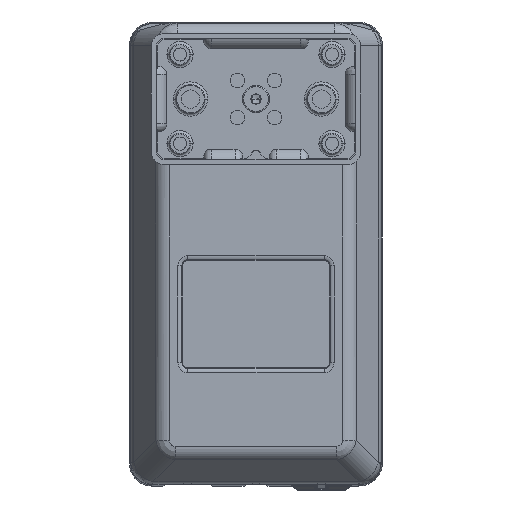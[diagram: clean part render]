
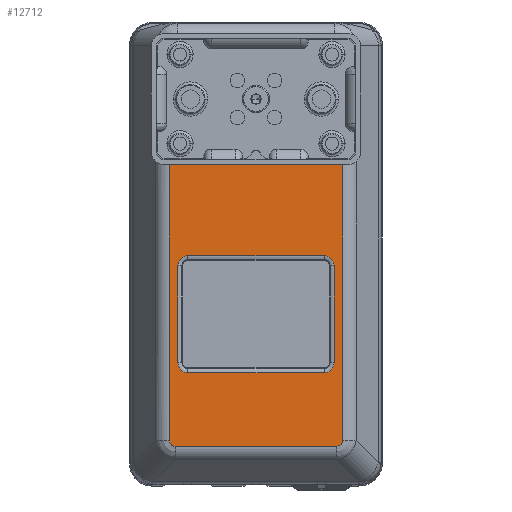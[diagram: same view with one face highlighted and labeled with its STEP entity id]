
A CAD part, front view. The second image highlights one B-rep face of the part: STEP entity #12712.
In plain terms, the highlighted planar face has unit normal (0, -1, 0) as drawn and (0, 1, 0) by its records, which use the part's own axes.
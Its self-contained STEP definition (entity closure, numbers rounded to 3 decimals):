
#1872=DIRECTION('',(-1.,0.,0.));
#1873=VECTOR('',#1872,61.725);
#1874=CARTESIAN_POINT('',(30.863,41.5,-161.378));
#1875=LINE('',#1874,#1873);
#1901=DIRECTION('',(0.,0.,-1.));
#1902=VECTOR('',#1901,109.034);
#1903=CARTESIAN_POINT('',(33.028,41.5,-50.178));
#1904=LINE('',#1903,#1902);
#2026=CARTESIAN_POINT('',(-28.5,41.5,
-42.4));
#2027=DIRECTION('',(0.,1.,0.));
#2028=DIRECTION('',(0.,0.,-1.));
#2029=AXIS2_PLACEMENT_3D('',#2026,#2027,#2028);
#2031=CARTESIAN_POINT('',(-33.028,41.5,-159.213));
#2032=CARTESIAN_POINT('',(-33.028,41.5,-159.3));
#2033=CARTESIAN_POINT('',(-33.019,41.5,-159.481));
#2034=CARTESIAN_POINT('',(-32.977,41.5,-159.747));
#2035=CARTESIAN_POINT('',(-32.904,41.5,-160.008));
#2036=CARTESIAN_POINT('',(-32.802,41.5,-160.253));
#2037=CARTESIAN_POINT('',(-32.672,41.5,-160.478));
#2038=CARTESIAN_POINT('',(-32.515,41.5,-160.683));
#2039=CARTESIAN_POINT('',(-32.334,41.5,-160.864));
#2040=CARTESIAN_POINT('',(-32.13,41.5,-161.021));
#2041=CARTESIAN_POINT('',(-31.904,41.5,-161.151));
#2042=CARTESIAN_POINT('',(-31.66,41.5,-161.253));
#2043=CARTESIAN_POINT('',(-31.399,41.5,-161.326));
#2044=CARTESIAN_POINT('',(-31.132,41.5,-161.369));
#2045=CARTESIAN_POINT('',(-30.95,41.5,-161.378));
#2046=CARTESIAN_POINT('',(-30.863,41.5,-161.378));
#2048=CARTESIAN_POINT('',(30.863,41.5,-161.378));
#2049=CARTESIAN_POINT('',(30.95,41.5,-161.378));
#2050=CARTESIAN_POINT('',(31.132,41.5,-161.369));
#2051=CARTESIAN_POINT('',(31.399,41.5,-161.326));
#2052=CARTESIAN_POINT('',(31.66,41.5,-161.253));
#2053=CARTESIAN_POINT('',(31.904,41.5,-161.151));
#2054=CARTESIAN_POINT('',(32.13,41.5,-161.021));
#2055=CARTESIAN_POINT('',(32.334,41.5,-160.864));
#2056=CARTESIAN_POINT('',(32.515,41.5,-160.683));
#2057=CARTESIAN_POINT('',(32.672,41.5,-160.478));
#2058=CARTESIAN_POINT('',(32.802,41.5,-160.253));
#2059=CARTESIAN_POINT('',(32.904,41.5,-160.008));
#2060=CARTESIAN_POINT('',(32.977,41.5,-159.747));
#2061=CARTESIAN_POINT('',(33.019,41.5,-159.481));
#2062=CARTESIAN_POINT('',(33.028,41.5,-159.3));
#2063=CARTESIAN_POINT('',(33.028,41.5,-159.213));
#2065=CARTESIAN_POINT('',(28.5,41.5,-42.4));
#2066=DIRECTION('',(0.,1.,0.));
#2067=DIRECTION('',(0.503,0.,-0.864));
#2068=AXIS2_PLACEMENT_3D('',#2065,#2066,#2067);
#2070=CARTESIAN_POINT('',(26.,41.5,-129.5));
#2071=DIRECTION('',(0.,1.,0.));
#2072=DIRECTION('',(1.,0.,0.));
#2073=AXIS2_PLACEMENT_3D('',#2070,#2071,#2072);
#2075=CARTESIAN_POINT('',(-26.,41.5,-129.5));
#2076=DIRECTION('',(0.,1.,0.));
#2077=DIRECTION('',(0.,0.,-1.));
#2078=AXIS2_PLACEMENT_3D('',#2075,#2076,#2077);
#2080=CARTESIAN_POINT('',(-26.,41.5,-92.5));
#2081=DIRECTION('',(0.,1.,0.));
#2082=DIRECTION('',(-1.,0.,0.));
#2083=AXIS2_PLACEMENT_3D('',#2080,#2081,#2082);
#2085=CARTESIAN_POINT('',(26.,41.5,-92.5));
#2086=DIRECTION('',(0.,1.,0.));
#2087=DIRECTION('',(0.,0.,1.));
#2088=AXIS2_PLACEMENT_3D('',#2085,#2086,#2087);
#2090=DIRECTION('',(1.,0.,0.));
#2091=VECTOR('',#2090,57.);
#2092=CARTESIAN_POINT('',(-28.5,41.5,-51.4));
#2093=LINE('',#2092,#2091);
#2267=DIRECTION('',(0.,0.,1.));
#2268=VECTOR('',#2267,109.034);
#2269=CARTESIAN_POINT('',(-33.028,41.5,-159.213));
#2270=LINE('',#2269,#2268);
#2362=DIRECTION('',(0.,0.,1.));
#2363=VECTOR('',#2362,37.);
#2364=CARTESIAN_POINT('',(29.803,41.5,-129.5));
#2365=LINE('',#2364,#2363);
#2385=DIRECTION('',(-1.,0.,0.));
#2386=VECTOR('',#2385,52.);
#2387=CARTESIAN_POINT('',(26.,41.5,-88.697));
#2388=LINE('',#2387,#2386);
#2408=DIRECTION('',(0.,0.,-1.));
#2409=VECTOR('',#2408,37.);
#2410=CARTESIAN_POINT('',(-29.803,41.5,-92.5));
#2411=LINE('',#2410,#2409);
#2431=DIRECTION('',(1.,0.,0.));
#2432=VECTOR('',#2431,52.);
#2433=CARTESIAN_POINT('',(-26.,41.5,-133.303));
#2434=LINE('',#2433,#2432);
#8916=CARTESIAN_POINT('',(-28.5,41.5,-51.4));
#8917=CARTESIAN_POINT('',(28.5,41.5,-51.4));
#8918=VERTEX_POINT('',#8916);
#8919=VERTEX_POINT('',#8917);
#8920=CARTESIAN_POINT('',(-33.028,41.5,-50.178));
#8921=VERTEX_POINT('',#8920);
#8922=CARTESIAN_POINT('',(-33.028,41.5,-159.213));
#8923=VERTEX_POINT('',#8922);
#8924=VERTEX_POINT('',#2046);
#8925=CARTESIAN_POINT('',(30.863,41.5,-161.378));
#8926=VERTEX_POINT('',#8925);
#8927=VERTEX_POINT('',#2063);
#8928=CARTESIAN_POINT('',(33.028,41.5,-50.178));
#8929=VERTEX_POINT('',#8928);
#8930=CARTESIAN_POINT('',(29.803,41.5,-129.5));
#8931=CARTESIAN_POINT('',(26.,41.5,-133.303));
#8932=VERTEX_POINT('',#8930);
#8933=VERTEX_POINT('',#8931);
#8934=CARTESIAN_POINT('',(-26.,41.5,-133.303));
#8935=VERTEX_POINT('',#8934);
#8936=CARTESIAN_POINT('',(-29.803,41.5,-129.5));
#8937=VERTEX_POINT('',#8936);
#8938=CARTESIAN_POINT('',(-29.803,41.5,-92.5));
#8939=VERTEX_POINT('',#8938);
#8940=CARTESIAN_POINT('',(-26.,41.5,-88.697));
#8941=VERTEX_POINT('',#8940);
#8942=CARTESIAN_POINT('',(26.,41.5,-88.697));
#8943=VERTEX_POINT('',#8942);
#8944=CARTESIAN_POINT('',(29.803,41.5,-92.5));
#8945=VERTEX_POINT('',#8944);
#12676=CARTESIAN_POINT('',(36.492,41.5,0.));
#12677=DIRECTION('',(0.,1.,0.));
#12678=DIRECTION('',(-1.,0.,0.));
#12679=AXIS2_PLACEMENT_3D('',#12676,#12677,#12678);
#12680=PLANE('',#12679);
#12682=ORIENTED_EDGE('',*,*,#12681,.F.);
#12684=ORIENTED_EDGE('',*,*,#12683,.T.);
#12686=ORIENTED_EDGE('',*,*,#12685,.F.);
#12687=ORIENTED_EDGE('',*,*,#12316,.T.);
#12688=ORIENTED_EDGE('',*,*,#12331,.F.);
#12689=ORIENTED_EDGE('',*,*,#12412,.T.);
#12690=ORIENTED_EDGE('',*,*,#12426,.F.);
#12691=ORIENTED_EDGE('',*,*,#12654,.T.);
#12692=EDGE_LOOP('',(#12682,#12684,#12686,#12687,#12688,#12689,#12690,#12691));
#12693=FACE_OUTER_BOUND('',#12692,.F.);
#12695=ORIENTED_EDGE('',*,*,#12694,.T.);
#12697=ORIENTED_EDGE('',*,*,#12696,.F.);
#12699=ORIENTED_EDGE('',*,*,#12698,.T.);
#12701=ORIENTED_EDGE('',*,*,#12700,.F.);
#12703=ORIENTED_EDGE('',*,*,#12702,.T.);
#12705=ORIENTED_EDGE('',*,*,#12704,.F.);
#12707=ORIENTED_EDGE('',*,*,#12706,.T.);
#12709=ORIENTED_EDGE('',*,*,#12708,.F.);
#12710=EDGE_LOOP('',(#12695,#12697,#12699,#12701,#12703,#12705,#12707,#12709));
#12711=FACE_BOUND('',#12710,.F.);
#2030=CIRCLE('',#2029,9.);
#2047=B_SPLINE_CURVE_WITH_KNOTS('',3,(#2031,#2032,#2033,#2034,#2035,#2036,#2037,
#2038,#2039,#2040,#2041,#2042,#2043,#2044,#2045,#2046),.UNSPECIFIED.,.F.,.F.,(4,
1,1,1,1,1,1,1,1,1,1,1,1,4),(0.,0.072,0.151,
0.229,0.307,0.384,0.461,
0.538,0.615,0.692,0.77,
0.848,0.927,1.),.UNSPECIFIED.);
#2064=B_SPLINE_CURVE_WITH_KNOTS('',3,(#2048,#2049,#2050,#2051,#2052,#2053,#2054,
#2055,#2056,#2057,#2058,#2059,#2060,#2061,#2062,#2063),.UNSPECIFIED.,.F.,.F.,(4,
1,1,1,1,1,1,1,1,1,1,1,1,4),(0.,0.073,0.152,
0.23,0.308,0.385,0.462,
0.539,0.616,0.693,0.771,
0.849,0.928,1.),.UNSPECIFIED.);
#2069=CIRCLE('',#2068,9.);
#2074=CIRCLE('',#2073,3.803);
#2079=CIRCLE('',#2078,3.803);
#2084=CIRCLE('',#2083,3.803);
#2089=CIRCLE('',#2088,3.803);
#12316=EDGE_CURVE('',#8923,#8924,#2047,.T.);
#12331=EDGE_CURVE('',#8926,#8924,#1875,.T.);
#12412=EDGE_CURVE('',#8926,#8927,#2064,.T.);
#12426=EDGE_CURVE('',#8929,#8927,#1904,.T.);
#12654=EDGE_CURVE('',#8929,#8919,#2069,.T.);
#12681=EDGE_CURVE('',#8918,#8919,#2093,.T.);
#12683=EDGE_CURVE('',#8918,#8921,#2030,.T.);
#12685=EDGE_CURVE('',#8923,#8921,#2270,.T.);
#12694=EDGE_CURVE('',#8932,#8933,#2074,.T.);
#12696=EDGE_CURVE('',#8935,#8933,#2434,.T.);
#12698=EDGE_CURVE('',#8935,#8937,#2079,.T.);
#12700=EDGE_CURVE('',#8939,#8937,#2411,.T.);
#12702=EDGE_CURVE('',#8939,#8941,#2084,.T.);
#12704=EDGE_CURVE('',#8943,#8941,#2388,.T.);
#12706=EDGE_CURVE('',#8943,#8945,#2089,.T.);
#12708=EDGE_CURVE('',#8932,#8945,#2365,.T.);
#12712=ADVANCED_FACE('',(#12693,#12711),#12680,.T.);
